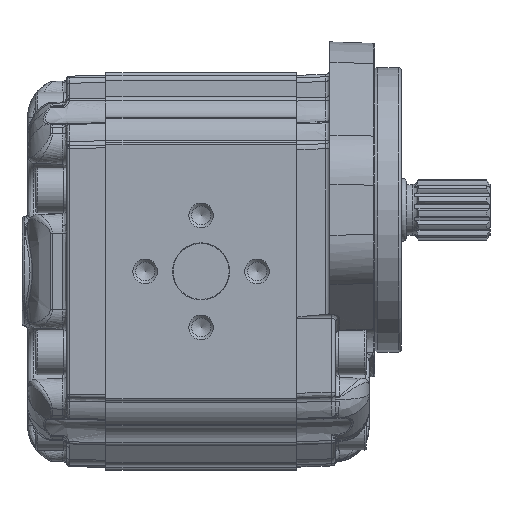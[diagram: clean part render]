
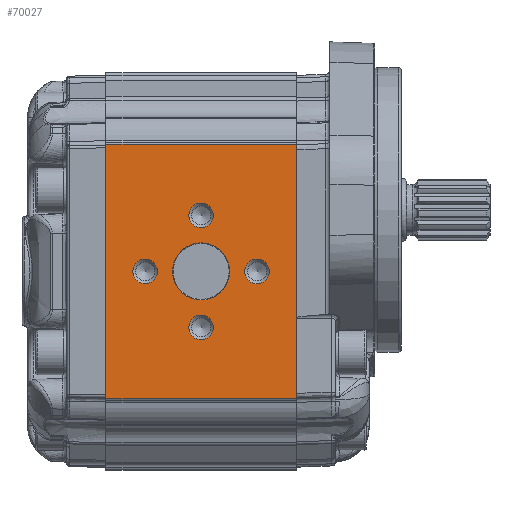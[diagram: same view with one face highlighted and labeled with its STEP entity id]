
A CAD part, left-side view. The second image highlights one B-rep face of the part: STEP entity #70027.
In plain terms, the highlighted planar face has unit normal (-1, 0, 0) as drawn and (1, 0, 0) by its records, which use the part's own axes.
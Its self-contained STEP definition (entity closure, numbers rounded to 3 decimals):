
#8105=LINE('',#122467,#10119);
#8116=LINE('',#122551,#10130);
#8162=LINE('',#122717,#10176);
#8163=LINE('',#122718,#10177);
#10119=VECTOR('',#77549,1000.);
#10130=VECTOR('',#77624,1000.);
#10176=VECTOR('',#77802,1000.);
#10177=VECTOR('',#77803,1000.);
#16526=ORIENTED_EDGE('',*,*,#29327,.T.);
#16527=ORIENTED_EDGE('',*,*,#29328,.T.);
#16528=ORIENTED_EDGE('',*,*,#29329,.T.);
#16529=ORIENTED_EDGE('',*,*,#29330,.T.);
#16530=ORIENTED_EDGE('',*,*,#29331,.T.);
#16531=ORIENTED_EDGE('',*,*,#29202,.F.);
#16532=ORIENTED_EDGE('',*,*,#29332,.T.);
#16533=ORIENTED_EDGE('',*,*,#29244,.F.);
#16534=ORIENTED_EDGE('',*,*,#29333,.T.);
#29202=EDGE_CURVE('',#35928,#35929,#8105,.T.);
#29244=EDGE_CURVE('',#35970,#35971,#8116,.T.);
#29327=EDGE_CURVE('',#36019,#36019,#39824,.F.);
#29328=EDGE_CURVE('',#36020,#36020,#39825,.F.);
#29329=EDGE_CURVE('',#36021,#36021,#39826,.F.);
#29330=EDGE_CURVE('',#36022,#36022,#39827,.F.);
#29331=EDGE_CURVE('',#36023,#36023,#39828,.F.);
#29332=EDGE_CURVE('',#35928,#35971,#8162,.F.);
#29333=EDGE_CURVE('',#35970,#35929,#8163,.F.);
#35928=VERTEX_POINT('',#122466);
#35929=VERTEX_POINT('',#122468);
#35970=VERTEX_POINT('',#122552);
#35971=VERTEX_POINT('',#122553);
#36019=VERTEX_POINT('',#122708);
#36020=VERTEX_POINT('',#122710);
#36021=VERTEX_POINT('',#122712);
#36022=VERTEX_POINT('',#122714);
#36023=VERTEX_POINT('',#122716);
#39824=CIRCLE('',#73302,4.4);
#39825=CIRCLE('',#73303,4.4);
#39826=CIRCLE('',#73304,4.4);
#39827=CIRCLE('',#73305,4.4);
#39828=CIRCLE('',#73306,10.2);
#41152=EDGE_LOOP('',(#16526));
#41153=EDGE_LOOP('',(#16527));
#41154=EDGE_LOOP('',(#16528));
#41155=EDGE_LOOP('',(#16529));
#41156=EDGE_LOOP('',(#16530));
#41157=EDGE_LOOP('',(#16531,#16532,#16533,#16534));
#44498=FACE_BOUND('',#41152,.T.);
#44499=FACE_BOUND('',#41153,.T.);
#44500=FACE_BOUND('',#41154,.T.);
#44501=FACE_BOUND('',#41155,.T.);
#44502=FACE_BOUND('',#41156,.T.);
#44503=FACE_BOUND('',#41157,.T.);
#46937=PLANE('',#73301);
#70027=ADVANCED_FACE('',(#44498,#44499,#44500,#44501,#44502,#44503),#46937,
 .T.);
#73301=AXIS2_PLACEMENT_3D('',#122706,#77790,#77791);
#73302=AXIS2_PLACEMENT_3D('',#122707,#77792,#77793);
#73303=AXIS2_PLACEMENT_3D('',#122709,#77794,#77795);
#73304=AXIS2_PLACEMENT_3D('',#122711,#77796,#77797);
#73305=AXIS2_PLACEMENT_3D('',#122713,#77798,#77799);
#73306=AXIS2_PLACEMENT_3D('',#122715,#77800,#77801);
#77549=DIRECTION('',(0.,0.,-1.));
#77624=DIRECTION('',(0.,0.,1.));
#77790=DIRECTION('',(1.,0.,0.));
#77791=DIRECTION('',(0.,0.,1.));
#77792=DIRECTION('',(1.,0.,0.));
#77793=DIRECTION('',(0.,0.,1.));
#77794=DIRECTION('',(1.,0.,0.));
#77795=DIRECTION('',(0.,0.,1.));
#77796=DIRECTION('',(1.,0.,0.));
#77797=DIRECTION('',(0.,0.,1.));
#77798=DIRECTION('',(1.,0.,0.));
#77799=DIRECTION('',(0.,0.,1.));
#77800=DIRECTION('',(1.,0.,0.));
#77801=DIRECTION('',(0.,0.,1.));
#77802=DIRECTION('',(0.,1.,0.));
#77803=DIRECTION('',(0.,-1.,0.));
#122466=CARTESIAN_POINT('',(57.5,68.,45.5));
#122467=CARTESIAN_POINT('',(57.5,68.,91.388));
#122468=CARTESIAN_POINT('',(57.5,68.,-45.5));
#122551=CARTESIAN_POINT('',(57.5,0.,-44.978));
#122552=CARTESIAN_POINT('',(57.5,0.,-45.5));
#122553=CARTESIAN_POINT('',(57.5,0.,45.5));
#122706=CARTESIAN_POINT('',(57.5,-154.175,91.388));
#122707=CARTESIAN_POINT('',(57.5,34.,20.));
#122708=CARTESIAN_POINT('',(57.5,34.,24.4));
#122709=CARTESIAN_POINT('',(57.5,14.,0.));
#122710=CARTESIAN_POINT('',(57.5,14.,4.4));
#122711=CARTESIAN_POINT('',(57.5,34.,-20.));
#122712=CARTESIAN_POINT('',(57.5,34.,-15.6));
#122713=CARTESIAN_POINT('',(57.5,54.,0.));
#122714=CARTESIAN_POINT('',(57.5,54.,4.4));
#122715=CARTESIAN_POINT('',(57.5,34.,0.));
#122716=CARTESIAN_POINT('',(57.5,34.,10.2));
#122717=CARTESIAN_POINT('',(57.5,-154.175,45.5));
#122718=CARTESIAN_POINT('',(57.5,-154.175,-45.5));
